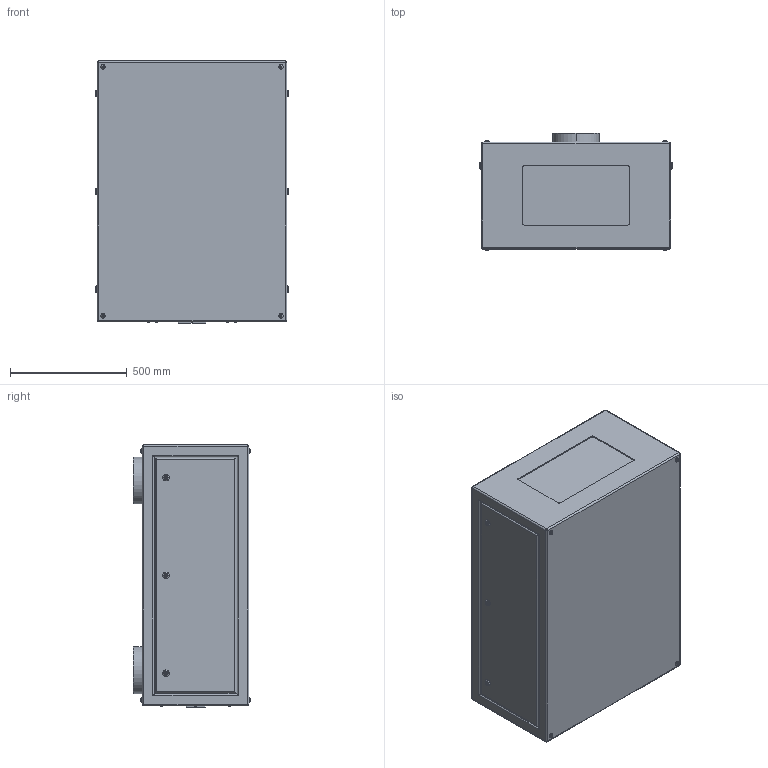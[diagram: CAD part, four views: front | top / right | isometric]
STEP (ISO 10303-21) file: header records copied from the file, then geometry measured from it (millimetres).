
FILE_DESCRIPTION (( 'STEP AP214' ), '1' );
FILE_NAME ('Tacit 56.202.L R08.STEP', '2022-09-11T21:17:49', ( '' ), ( '' ), 'SwSTEP 2.0', 'SolidWorks 2020', '' );
FILE_SCHEMA (( 'AUTOMOTIVE_DESIGN' ));
Length unit declared in the file: inch
Products named in the file (1): Tacit 56.202.L R08
Bounding box: 825.5 x 502.55 x 1122.68 mm (x, y, z)
Volume: 414178141.9 mm3; surface area: 3859549.3 mm2
Topology: 1 solids, 5 shells, 365 faces, 812 edges, 508 vertices
Faces by surface type: plane 157, cylinder 156, torus 44, sphere 8
Entity records: 13557 total; most frequent: CARTESIAN_POINT 2110, DIRECTION 1808, ORIENTED_EDGE 1608, EDGE_CURVE 804, AXIS2_PLACEMENT_3D 718, VERTEX_POINT 508, EDGE_LOOP 424, VECTOR 372
